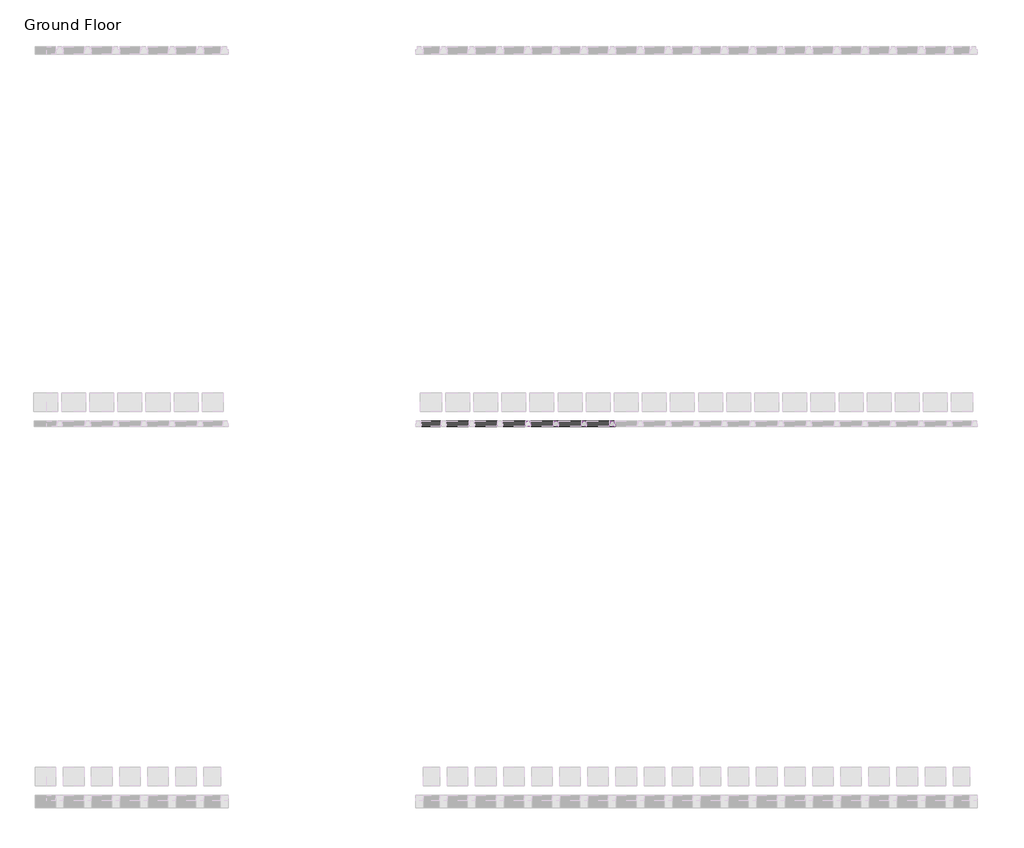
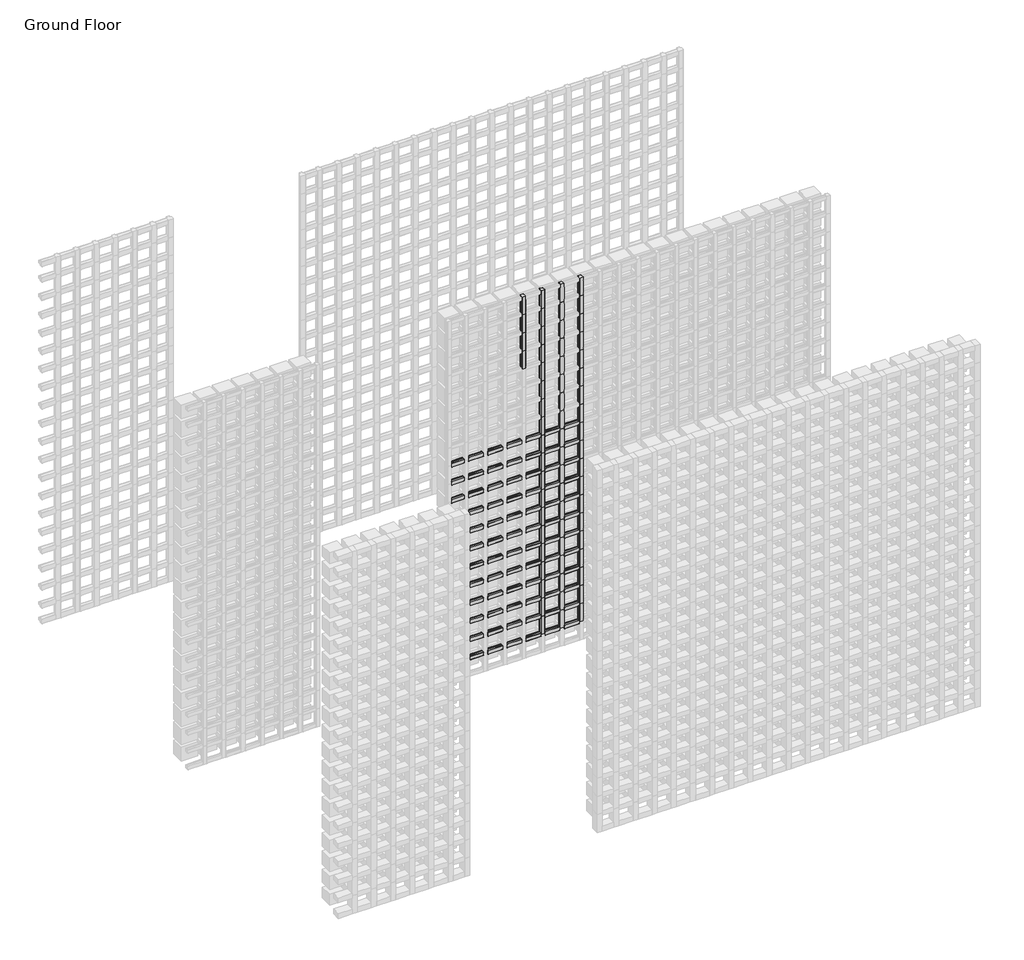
# One storey, part 137 of 350: 145 members.
"""IFC4 building model written with IfcOpenShell, lengths in millimetres."""

from ifc_helpers import new_model, si_unit, origin, place, context, project, spatial, transform, mapped, element, save
from components import rectangular_mullion_01bdf753, rectangular_mullion_f1976eb1, rectangular_mullion_e2bab149

model = new_model("IFC4")

# Units and contexts
model_context = context("Model", 3, world=origin())
ifc_project = project(units=[si_unit("LENGTHUNIT", "METRE", prefix="MILLI")], contexts=[model_context])

# Site, building, storey
site = spatial("IfcSite", under=ifc_project)
building = spatial("IfcBuilding", under=site)
storey = spatial("IfcBuildingStorey", under=building, Name="Ground Floor", Elevation=0.0)

# Members
placement = place(None, origin())
rectangular_mullion_shape = rectangular_mullion_01bdf753(model_context)
element("IfcMember", 1, ObjectType="Rectangular Mullion : Batten_Timber_Modinex_Austratus_Grid_Fin_30x30_Hemlock", at=placement, inside=storey, context=model_context, shape_type="MappedRepresentation", body=[
    mapped(rectangular_mullion_shape, transform((10201.4361642, 42968.2978302, 150.0), x_axis=(0.0, 0.0, 1.0), y_axis=(0.0, -1.0, 0.0), z_axis=(1.0, 0.0, 0.0))),
])
element("IfcMember", 2, ObjectType="Rectangular Mullion : Batten_Timber_Modinex_Austratus_Grid_Fin_30x30_Hemlock", at=placement, inside=storey, context=model_context, shape_type="MappedRepresentation", body=[
    mapped(rectangular_mullion_shape, transform((10351.4361642, 42968.2978302, 150.0), x_axis=(0.0, 0.0, 1.0), y_axis=(0.0, -1.0, 0.0), z_axis=(1.0, 0.0, 0.0))),
])
element("IfcMember", 3, ObjectType="Rectangular Mullion : Batten_Timber_Modinex_Austratus_Grid_Fin_30x30_Hemlock", at=placement, inside=storey, context=model_context, shape_type="MappedRepresentation", body=[
    mapped(rectangular_mullion_shape, transform((10501.4361642, 42968.2978302, 150.0), x_axis=(0.0, 0.0, 1.0), y_axis=(0.0, -1.0, 0.0), z_axis=(1.0, 0.0, 0.0))),
])
element("IfcMember", 4, ObjectType="Rectangular Mullion : Batten_Timber_Modinex_Austratus_Grid_Fin_30x30_Hemlock", at=placement, inside=storey, context=model_context, shape_type="MappedRepresentation", body=[
    mapped(rectangular_mullion_shape, transform((10651.4361642, 42968.2978302, 150.0), x_axis=(0.0, 0.0, 1.0), y_axis=(0.0, -1.0, 0.0), z_axis=(1.0, 0.0, 0.0))),
])
element("IfcMember", 5, ObjectType="Rectangular Mullion : Batten_Timber_Modinex_Austratus_Grid_Fin_30x30_Hemlock", at=placement, inside=storey, context=model_context, shape_type="MappedRepresentation", body=[
    mapped(rectangular_mullion_shape, transform((10801.4361642, 42968.2978302, 150.0), x_axis=(0.0, 0.0, 1.0), y_axis=(0.0, -1.0, 0.0), z_axis=(1.0, 0.0, 0.0))),
])
element("IfcMember", 6, ObjectType="Rectangular Mullion : Batten_Timber_Modinex_Austratus_Grid_Fin_30x30_Hemlock", at=placement, inside=storey, context=model_context, shape_type="MappedRepresentation", body=[
    mapped(rectangular_mullion_shape, transform((10951.4361642, 42968.2978302, 150.0), x_axis=(0.0, 0.0, 1.0), y_axis=(0.0, -1.0, 0.0), z_axis=(1.0, 0.0, 0.0))),
])
element("IfcMember", 7, ObjectType="Rectangular Mullion : Batten_Timber_Modinex_Austratus_Grid_Fin_30x30_Hemlock", at=placement, inside=storey, context=model_context, shape_type="MappedRepresentation", body=[
    mapped(rectangular_mullion_shape, transform((10201.4361642, 42968.2978302, 300.0), x_axis=(0.0, 0.0, 1.0), y_axis=(0.0, -1.0, 0.0), z_axis=(1.0, 0.0, 0.0))),
])
element("IfcMember", 8, ObjectType="Rectangular Mullion : Batten_Timber_Modinex_Austratus_Grid_Fin_30x30_Hemlock", at=placement, inside=storey, context=model_context, shape_type="MappedRepresentation", body=[
    mapped(rectangular_mullion_shape, transform((10351.4361642, 42968.2978302, 300.0), x_axis=(0.0, 0.0, 1.0), y_axis=(0.0, -1.0, 0.0), z_axis=(1.0, 0.0, 0.0))),
])
element("IfcMember", 9, ObjectType="Rectangular Mullion : Batten_Timber_Modinex_Austratus_Grid_Fin_30x30_Hemlock", at=placement, inside=storey, context=model_context, shape_type="MappedRepresentation", body=[
    mapped(rectangular_mullion_shape, transform((10501.4361642, 42968.2978302, 300.0), x_axis=(0.0, 0.0, 1.0), y_axis=(0.0, -1.0, 0.0), z_axis=(1.0, 0.0, 0.0))),
])
element("IfcMember", 10, ObjectType="Rectangular Mullion : Batten_Timber_Modinex_Austratus_Grid_Fin_30x30_Hemlock", at=placement, inside=storey, context=model_context, shape_type="MappedRepresentation", body=[
    mapped(rectangular_mullion_shape, transform((10651.4361642, 42968.2978302, 300.0), x_axis=(0.0, 0.0, 1.0), y_axis=(0.0, -1.0, 0.0), z_axis=(1.0, 0.0, 0.0))),
])
element("IfcMember", 11, ObjectType="Rectangular Mullion : Batten_Timber_Modinex_Austratus_Grid_Fin_30x30_Hemlock", at=placement, inside=storey, context=model_context, shape_type="MappedRepresentation", body=[
    mapped(rectangular_mullion_shape, transform((10801.4361642, 42968.2978302, 300.0), x_axis=(0.0, 0.0, 1.0), y_axis=(0.0, -1.0, 0.0), z_axis=(1.0, 0.0, 0.0))),
])
element("IfcMember", 12, ObjectType="Rectangular Mullion : Batten_Timber_Modinex_Austratus_Grid_Fin_30x30_Hemlock", at=placement, inside=storey, context=model_context, shape_type="MappedRepresentation", body=[
    mapped(rectangular_mullion_shape, transform((10951.4361642, 42968.2978302, 300.0), x_axis=(0.0, 0.0, 1.0), y_axis=(0.0, -1.0, 0.0), z_axis=(1.0, 0.0, 0.0))),
])
element("IfcMember", 13, ObjectType="Rectangular Mullion : Batten_Timber_Modinex_Austratus_Grid_Fin_30x30_Hemlock", at=placement, inside=storey, context=model_context, shape_type="MappedRepresentation", body=[
    mapped(rectangular_mullion_shape, transform((10201.4361642, 42968.2978302, 450.0), x_axis=(0.0, 0.0, 1.0), y_axis=(0.0, -1.0, 0.0), z_axis=(1.0, 0.0, 0.0))),
])
element("IfcMember", 14, ObjectType="Rectangular Mullion : Batten_Timber_Modinex_Austratus_Grid_Fin_30x30_Hemlock", at=placement, inside=storey, context=model_context, shape_type="MappedRepresentation", body=[
    mapped(rectangular_mullion_shape, transform((10351.4361642, 42968.2978302, 450.0), x_axis=(0.0, 0.0, 1.0), y_axis=(0.0, -1.0, 0.0), z_axis=(1.0, 0.0, 0.0))),
])
element("IfcMember", 15, ObjectType="Rectangular Mullion : Batten_Timber_Modinex_Austratus_Grid_Fin_30x30_Hemlock", at=placement, inside=storey, context=model_context, shape_type="MappedRepresentation", body=[
    mapped(rectangular_mullion_shape, transform((10501.4361642, 42968.2978302, 450.0), x_axis=(0.0, 0.0, 1.0), y_axis=(0.0, -1.0, 0.0), z_axis=(1.0, 0.0, 0.0))),
])
element("IfcMember", 16, ObjectType="Rectangular Mullion : Batten_Timber_Modinex_Austratus_Grid_Fin_30x30_Hemlock", at=placement, inside=storey, context=model_context, shape_type="MappedRepresentation", body=[
    mapped(rectangular_mullion_shape, transform((10651.4361642, 42968.2978302, 450.0), x_axis=(0.0, 0.0, 1.0), y_axis=(0.0, -1.0, 0.0), z_axis=(1.0, 0.0, 0.0))),
])
element("IfcMember", 17, ObjectType="Rectangular Mullion : Batten_Timber_Modinex_Austratus_Grid_Fin_30x30_Hemlock", at=placement, inside=storey, context=model_context, shape_type="MappedRepresentation", body=[
    mapped(rectangular_mullion_shape, transform((10801.4361642, 42968.2978302, 450.0), x_axis=(0.0, 0.0, 1.0), y_axis=(0.0, -1.0, 0.0), z_axis=(1.0, 0.0, 0.0))),
])
element("IfcMember", 18, ObjectType="Rectangular Mullion : Batten_Timber_Modinex_Austratus_Grid_Fin_30x30_Hemlock", at=placement, inside=storey, context=model_context, shape_type="MappedRepresentation", body=[
    mapped(rectangular_mullion_shape, transform((10951.4361642, 42968.2978302, 450.0), x_axis=(0.0, 0.0, 1.0), y_axis=(0.0, -1.0, 0.0), z_axis=(1.0, 0.0, 0.0))),
])
element("IfcMember", 19, ObjectType="Rectangular Mullion : Batten_Timber_Modinex_Austratus_Grid_Fin_30x30_Hemlock", at=placement, inside=storey, context=model_context, shape_type="MappedRepresentation", body=[
    mapped(rectangular_mullion_shape, transform((10201.4361642, 42968.2978302, 600.0), x_axis=(0.0, 0.0, 1.0), y_axis=(0.0, -1.0, 0.0), z_axis=(1.0, 0.0, 0.0))),
])
element("IfcMember", 20, ObjectType="Rectangular Mullion : Batten_Timber_Modinex_Austratus_Grid_Fin_30x30_Hemlock", at=placement, inside=storey, context=model_context, shape_type="MappedRepresentation", body=[
    mapped(rectangular_mullion_shape, transform((10351.4361642, 42968.2978302, 600.0), x_axis=(0.0, 0.0, 1.0), y_axis=(0.0, -1.0, 0.0), z_axis=(1.0, 0.0, 0.0))),
])
element("IfcMember", 21, ObjectType="Rectangular Mullion : Batten_Timber_Modinex_Austratus_Grid_Fin_30x30_Hemlock", at=placement, inside=storey, context=model_context, shape_type="MappedRepresentation", body=[
    mapped(rectangular_mullion_shape, transform((10501.4361642, 42968.2978302, 600.0), x_axis=(0.0, 0.0, 1.0), y_axis=(0.0, -1.0, 0.0), z_axis=(1.0, 0.0, 0.0))),
])
element("IfcMember", 22, ObjectType="Rectangular Mullion : Batten_Timber_Modinex_Austratus_Grid_Fin_30x30_Hemlock", at=placement, inside=storey, context=model_context, shape_type="MappedRepresentation", body=[
    mapped(rectangular_mullion_shape, transform((10651.4361642, 42968.2978302, 600.0), x_axis=(0.0, 0.0, 1.0), y_axis=(0.0, -1.0, 0.0), z_axis=(1.0, 0.0, 0.0))),
])
element("IfcMember", 23, ObjectType="Rectangular Mullion : Batten_Timber_Modinex_Austratus_Grid_Fin_30x30_Hemlock", at=placement, inside=storey, context=model_context, shape_type="MappedRepresentation", body=[
    mapped(rectangular_mullion_shape, transform((10801.4361642, 42968.2978302, 600.0), x_axis=(0.0, 0.0, 1.0), y_axis=(0.0, -1.0, 0.0), z_axis=(1.0, 0.0, 0.0))),
])
element("IfcMember", 24, ObjectType="Rectangular Mullion : Batten_Timber_Modinex_Austratus_Grid_Fin_30x30_Hemlock", at=placement, inside=storey, context=model_context, shape_type="MappedRepresentation", body=[
    mapped(rectangular_mullion_shape, transform((10951.4361642, 42968.2978302, 600.0), x_axis=(0.0, 0.0, 1.0), y_axis=(0.0, -1.0, 0.0), z_axis=(1.0, 0.0, 0.0))),
])
element("IfcMember", 25, ObjectType="Rectangular Mullion : Batten_Timber_Modinex_Austratus_Grid_Fin_30x30_Hemlock", at=placement, inside=storey, context=model_context, shape_type="MappedRepresentation", body=[
    mapped(rectangular_mullion_shape, transform((10201.4361642, 42968.2978302, 750.0), x_axis=(0.0, 0.0, 1.0), y_axis=(0.0, -1.0, 0.0), z_axis=(1.0, 0.0, 0.0))),
])
element("IfcMember", 26, ObjectType="Rectangular Mullion : Batten_Timber_Modinex_Austratus_Grid_Fin_30x30_Hemlock", at=placement, inside=storey, context=model_context, shape_type="MappedRepresentation", body=[
    mapped(rectangular_mullion_shape, transform((10351.4361642, 42968.2978302, 750.0), x_axis=(0.0, 0.0, 1.0), y_axis=(0.0, -1.0, 0.0), z_axis=(1.0, 0.0, 0.0))),
])
element("IfcMember", 27, ObjectType="Rectangular Mullion : Batten_Timber_Modinex_Austratus_Grid_Fin_30x30_Hemlock", at=placement, inside=storey, context=model_context, shape_type="MappedRepresentation", body=[
    mapped(rectangular_mullion_shape, transform((10501.4361642, 42968.2978302, 750.0), x_axis=(0.0, 0.0, 1.0), y_axis=(0.0, -1.0, 0.0), z_axis=(1.0, 0.0, 0.0))),
])
element("IfcMember", 28, ObjectType="Rectangular Mullion : Batten_Timber_Modinex_Austratus_Grid_Fin_30x30_Hemlock", at=placement, inside=storey, context=model_context, shape_type="MappedRepresentation", body=[
    mapped(rectangular_mullion_shape, transform((10651.4361642, 42968.2978302, 750.0), x_axis=(0.0, 0.0, 1.0), y_axis=(0.0, -1.0, 0.0), z_axis=(1.0, 0.0, 0.0))),
])
element("IfcMember", 29, ObjectType="Rectangular Mullion : Batten_Timber_Modinex_Austratus_Grid_Fin_30x30_Hemlock", at=placement, inside=storey, context=model_context, shape_type="MappedRepresentation", body=[
    mapped(rectangular_mullion_shape, transform((10801.4361642, 42968.2978302, 750.0), x_axis=(0.0, 0.0, 1.0), y_axis=(0.0, -1.0, 0.0), z_axis=(1.0, 0.0, 0.0))),
])
element("IfcMember", 30, ObjectType="Rectangular Mullion : Batten_Timber_Modinex_Austratus_Grid_Fin_30x30_Hemlock", at=placement, inside=storey, context=model_context, shape_type="MappedRepresentation", body=[
    mapped(rectangular_mullion_shape, transform((10951.4361642, 42968.2978302, 750.0), x_axis=(0.0, 0.0, 1.0), y_axis=(0.0, -1.0, 0.0), z_axis=(1.0, 0.0, 0.0))),
])
element("IfcMember", 31, ObjectType="Rectangular Mullion : Batten_Timber_Modinex_Austratus_Grid_Fin_30x30_Hemlock", at=placement, inside=storey, context=model_context, shape_type="MappedRepresentation", body=[
    mapped(rectangular_mullion_shape, transform((10201.4361642, 42968.2978302, 900.0), x_axis=(0.0, 0.0, 1.0), y_axis=(0.0, -1.0, 0.0), z_axis=(1.0, 0.0, 0.0))),
])
element("IfcMember", 32, ObjectType="Rectangular Mullion : Batten_Timber_Modinex_Austratus_Grid_Fin_30x30_Hemlock", at=placement, inside=storey, context=model_context, shape_type="MappedRepresentation", body=[
    mapped(rectangular_mullion_shape, transform((10351.4361642, 42968.2978302, 900.0), x_axis=(0.0, 0.0, 1.0), y_axis=(0.0, -1.0, 0.0), z_axis=(1.0, 0.0, 0.0))),
])
element("IfcMember", 33, ObjectType="Rectangular Mullion : Batten_Timber_Modinex_Austratus_Grid_Fin_30x30_Hemlock", at=placement, inside=storey, context=model_context, shape_type="MappedRepresentation", body=[
    mapped(rectangular_mullion_shape, transform((10501.4361642, 42968.2978302, 900.0), x_axis=(0.0, 0.0, 1.0), y_axis=(0.0, -1.0, 0.0), z_axis=(1.0, 0.0, 0.0))),
])
element("IfcMember", 34, ObjectType="Rectangular Mullion : Batten_Timber_Modinex_Austratus_Grid_Fin_30x30_Hemlock", at=placement, inside=storey, context=model_context, shape_type="MappedRepresentation", body=[
    mapped(rectangular_mullion_shape, transform((10651.4361642, 42968.2978302, 900.0), x_axis=(0.0, 0.0, 1.0), y_axis=(0.0, -1.0, 0.0), z_axis=(1.0, 0.0, 0.0))),
])
element("IfcMember", 35, ObjectType="Rectangular Mullion : Batten_Timber_Modinex_Austratus_Grid_Fin_30x30_Hemlock", at=placement, inside=storey, context=model_context, shape_type="MappedRepresentation", body=[
    mapped(rectangular_mullion_shape, transform((10801.4361642, 42968.2978302, 900.0), x_axis=(0.0, 0.0, 1.0), y_axis=(0.0, -1.0, 0.0), z_axis=(1.0, 0.0, 0.0))),
])
element("IfcMember", 36, ObjectType="Rectangular Mullion : Batten_Timber_Modinex_Austratus_Grid_Fin_30x30_Hemlock", at=placement, inside=storey, context=model_context, shape_type="MappedRepresentation", body=[
    mapped(rectangular_mullion_shape, transform((10951.4361642, 42968.2978302, 900.0), x_axis=(0.0, 0.0, 1.0), y_axis=(0.0, -1.0, 0.0), z_axis=(1.0, 0.0, 0.0))),
])
element("IfcMember", 37, ObjectType="Rectangular Mullion : Batten_Timber_Modinex_Austratus_Grid_Fin_30x30_Hemlock", at=placement, inside=storey, context=model_context, shape_type="MappedRepresentation", body=[
    mapped(rectangular_mullion_shape, transform((10201.4361642, 42968.2978302, 1050.0), x_axis=(0.0, 0.0, 1.0), y_axis=(0.0, -1.0, 0.0), z_axis=(1.0, 0.0, 0.0))),
])
element("IfcMember", 38, ObjectType="Rectangular Mullion : Batten_Timber_Modinex_Austratus_Grid_Fin_30x30_Hemlock", at=placement, inside=storey, context=model_context, shape_type="MappedRepresentation", body=[
    mapped(rectangular_mullion_shape, transform((10351.4361642, 42968.2978302, 1050.0), x_axis=(0.0, 0.0, 1.0), y_axis=(0.0, -1.0, 0.0), z_axis=(1.0, 0.0, 0.0))),
])
element("IfcMember", 39, ObjectType="Rectangular Mullion : Batten_Timber_Modinex_Austratus_Grid_Fin_30x30_Hemlock", at=placement, inside=storey, context=model_context, shape_type="MappedRepresentation", body=[
    mapped(rectangular_mullion_shape, transform((10501.4361642, 42968.2978302, 1050.0), x_axis=(0.0, 0.0, 1.0), y_axis=(0.0, -1.0, 0.0), z_axis=(1.0, 0.0, 0.0))),
])
element("IfcMember", 40, ObjectType="Rectangular Mullion : Batten_Timber_Modinex_Austratus_Grid_Fin_30x30_Hemlock", at=placement, inside=storey, context=model_context, shape_type="MappedRepresentation", body=[
    mapped(rectangular_mullion_shape, transform((10651.4361642, 42968.2978302, 1050.0), x_axis=(0.0, 0.0, 1.0), y_axis=(0.0, -1.0, 0.0), z_axis=(1.0, 0.0, 0.0))),
])
element("IfcMember", 41, ObjectType="Rectangular Mullion : Batten_Timber_Modinex_Austratus_Grid_Fin_30x30_Hemlock", at=placement, inside=storey, context=model_context, shape_type="MappedRepresentation", body=[
    mapped(rectangular_mullion_shape, transform((10801.4361642, 42968.2978302, 1050.0), x_axis=(0.0, 0.0, 1.0), y_axis=(0.0, -1.0, 0.0), z_axis=(1.0, 0.0, 0.0))),
])
element("IfcMember", 42, ObjectType="Rectangular Mullion : Batten_Timber_Modinex_Austratus_Grid_Fin_30x30_Hemlock", at=placement, inside=storey, context=model_context, shape_type="MappedRepresentation", body=[
    mapped(rectangular_mullion_shape, transform((10951.4361642, 42968.2978302, 1050.0), x_axis=(0.0, 0.0, 1.0), y_axis=(0.0, -1.0, 0.0), z_axis=(1.0, 0.0, 0.0))),
])
element("IfcMember", 43, ObjectType="Rectangular Mullion : Batten_Timber_Modinex_Austratus_Grid_Fin_30x30_Hemlock", at=placement, inside=storey, context=model_context, shape_type="MappedRepresentation", body=[
    mapped(rectangular_mullion_shape, transform((10201.4361642, 42968.2978302, 1200.0), x_axis=(0.0, 0.0, 1.0), y_axis=(0.0, -1.0, 0.0), z_axis=(1.0, 0.0, 0.0))),
])
element("IfcMember", 44, ObjectType="Rectangular Mullion : Batten_Timber_Modinex_Austratus_Grid_Fin_30x30_Hemlock", at=placement, inside=storey, context=model_context, shape_type="MappedRepresentation", body=[
    mapped(rectangular_mullion_shape, transform((10351.4361642, 42968.2978302, 1200.0), x_axis=(0.0, 0.0, 1.0), y_axis=(0.0, -1.0, 0.0), z_axis=(1.0, 0.0, 0.0))),
])
element("IfcMember", 45, ObjectType="Rectangular Mullion : Batten_Timber_Modinex_Austratus_Grid_Fin_30x30_Hemlock", at=placement, inside=storey, context=model_context, shape_type="MappedRepresentation", body=[
    mapped(rectangular_mullion_shape, transform((10501.4361642, 42968.2978302, 1200.0), x_axis=(0.0, 0.0, 1.0), y_axis=(0.0, -1.0, 0.0), z_axis=(1.0, 0.0, 0.0))),
])
element("IfcMember", 46, ObjectType="Rectangular Mullion : Batten_Timber_Modinex_Austratus_Grid_Fin_30x30_Hemlock", at=placement, inside=storey, context=model_context, shape_type="MappedRepresentation", body=[
    mapped(rectangular_mullion_shape, transform((10651.4361642, 42968.2978302, 1200.0), x_axis=(0.0, 0.0, 1.0), y_axis=(0.0, -1.0, 0.0), z_axis=(1.0, 0.0, 0.0))),
])
element("IfcMember", 47, ObjectType="Rectangular Mullion : Batten_Timber_Modinex_Austratus_Grid_Fin_30x30_Hemlock", at=placement, inside=storey, context=model_context, shape_type="MappedRepresentation", body=[
    mapped(rectangular_mullion_shape, transform((10801.4361642, 42968.2978302, 1200.0), x_axis=(0.0, 0.0, 1.0), y_axis=(0.0, -1.0, 0.0), z_axis=(1.0, 0.0, 0.0))),
])
element("IfcMember", 48, ObjectType="Rectangular Mullion : Batten_Timber_Modinex_Austratus_Grid_Fin_30x30_Hemlock", at=placement, inside=storey, context=model_context, shape_type="MappedRepresentation", body=[
    mapped(rectangular_mullion_shape, transform((10951.4361642, 42968.2978302, 1200.0), x_axis=(0.0, 0.0, 1.0), y_axis=(0.0, -1.0, 0.0), z_axis=(1.0, 0.0, 0.0))),
])
element("IfcMember", 49, ObjectType="Rectangular Mullion : Batten_Timber_Modinex_Austratus_Grid_Fin_30x30_Hemlock", at=placement, inside=storey, context=model_context, shape_type="MappedRepresentation", body=[
    mapped(rectangular_mullion_shape, transform((10201.4361642, 42968.2978302, 1350.0), x_axis=(0.0, 0.0, 1.0), y_axis=(0.0, -1.0, 0.0), z_axis=(1.0, 0.0, 0.0))),
])
element("IfcMember", 50, ObjectType="Rectangular Mullion : Batten_Timber_Modinex_Austratus_Grid_Fin_30x30_Hemlock", at=placement, inside=storey, context=model_context, shape_type="MappedRepresentation", body=[
    mapped(rectangular_mullion_shape, transform((10351.4361642, 42968.2978302, 1350.0), x_axis=(0.0, 0.0, 1.0), y_axis=(0.0, -1.0, 0.0), z_axis=(1.0, 0.0, 0.0))),
])
element("IfcMember", 51, ObjectType="Rectangular Mullion : Batten_Timber_Modinex_Austratus_Grid_Fin_30x30_Hemlock", at=placement, inside=storey, context=model_context, shape_type="MappedRepresentation", body=[
    mapped(rectangular_mullion_shape, transform((10501.4361642, 42968.2978302, 1350.0), x_axis=(0.0, 0.0, 1.0), y_axis=(0.0, -1.0, 0.0), z_axis=(1.0, 0.0, 0.0))),
])
element("IfcMember", 52, ObjectType="Rectangular Mullion : Batten_Timber_Modinex_Austratus_Grid_Fin_30x30_Hemlock", at=placement, inside=storey, context=model_context, shape_type="MappedRepresentation", body=[
    mapped(rectangular_mullion_shape, transform((10651.4361642, 42968.2978302, 1350.0), x_axis=(0.0, 0.0, 1.0), y_axis=(0.0, -1.0, 0.0), z_axis=(1.0, 0.0, 0.0))),
])
element("IfcMember", 53, ObjectType="Rectangular Mullion : Batten_Timber_Modinex_Austratus_Grid_Fin_30x30_Hemlock", at=placement, inside=storey, context=model_context, shape_type="MappedRepresentation", body=[
    mapped(rectangular_mullion_shape, transform((10801.4361642, 42968.2978302, 1350.0), x_axis=(0.0, 0.0, 1.0), y_axis=(0.0, -1.0, 0.0), z_axis=(1.0, 0.0, 0.0))),
])
element("IfcMember", 54, ObjectType="Rectangular Mullion : Batten_Timber_Modinex_Austratus_Grid_Fin_30x30_Hemlock", at=placement, inside=storey, context=model_context, shape_type="MappedRepresentation", body=[
    mapped(rectangular_mullion_shape, transform((10951.4361642, 42968.2978302, 1350.0), x_axis=(0.0, 0.0, 1.0), y_axis=(0.0, -1.0, 0.0), z_axis=(1.0, 0.0, 0.0))),
])
element("IfcMember", 55, ObjectType="Rectangular Mullion : Batten_Timber_Modinex_Austratus_Grid_Fin_30x30_Hemlock", at=placement, inside=storey, context=model_context, shape_type="MappedRepresentation", body=[
    mapped(rectangular_mullion_shape, transform((10201.4361642, 42968.2978302, 1500.0), x_axis=(0.0, 0.0, 1.0), y_axis=(0.0, -1.0, 0.0), z_axis=(1.0, 0.0, 0.0))),
])
element("IfcMember", 56, ObjectType="Rectangular Mullion : Batten_Timber_Modinex_Austratus_Grid_Fin_30x30_Hemlock", at=placement, inside=storey, context=model_context, shape_type="MappedRepresentation", body=[
    mapped(rectangular_mullion_shape, transform((10351.4361642, 42968.2978302, 1500.0), x_axis=(0.0, 0.0, 1.0), y_axis=(0.0, -1.0, 0.0), z_axis=(1.0, 0.0, 0.0))),
])
element("IfcMember", 57, ObjectType="Rectangular Mullion : Batten_Timber_Modinex_Austratus_Grid_Fin_30x30_Hemlock", at=placement, inside=storey, context=model_context, shape_type="MappedRepresentation", body=[
    mapped(rectangular_mullion_shape, transform((10501.4361642, 42968.2978302, 1500.0), x_axis=(0.0, 0.0, 1.0), y_axis=(0.0, -1.0, 0.0), z_axis=(1.0, 0.0, 0.0))),
])
element("IfcMember", 58, ObjectType="Rectangular Mullion : Batten_Timber_Modinex_Austratus_Grid_Fin_30x30_Hemlock", at=placement, inside=storey, context=model_context, shape_type="MappedRepresentation", body=[
    mapped(rectangular_mullion_shape, transform((10651.4361642, 42968.2978302, 1500.0), x_axis=(0.0, 0.0, 1.0), y_axis=(0.0, -1.0, 0.0), z_axis=(1.0, 0.0, 0.0))),
])
element("IfcMember", 59, ObjectType="Rectangular Mullion : Batten_Timber_Modinex_Austratus_Grid_Fin_30x30_Hemlock", at=placement, inside=storey, context=model_context, shape_type="MappedRepresentation", body=[
    mapped(rectangular_mullion_shape, transform((10801.4361642, 42968.2978302, 1500.0), x_axis=(0.0, 0.0, 1.0), y_axis=(0.0, -1.0, 0.0), z_axis=(1.0, 0.0, 0.0))),
])
element("IfcMember", 60, ObjectType="Rectangular Mullion : Batten_Timber_Modinex_Austratus_Grid_Fin_30x30_Hemlock", at=placement, inside=storey, context=model_context, shape_type="MappedRepresentation", body=[
    mapped(rectangular_mullion_shape, transform((10951.4361642, 42968.2978302, 1500.0), x_axis=(0.0, 0.0, 1.0), y_axis=(0.0, -1.0, 0.0), z_axis=(1.0, 0.0, 0.0))),
])
element("IfcMember", 61, ObjectType="Rectangular Mullion : Batten_Timber_Modinex_Austratus_Grid_Fin_30x30_Hemlock", at=placement, inside=storey, context=model_context, shape_type="MappedRepresentation", body=[
    mapped(rectangular_mullion_shape, transform((10201.4361642, 42968.2978302, 1650.0), x_axis=(0.0, 0.0, 1.0), y_axis=(0.0, -1.0, 0.0), z_axis=(1.0, 0.0, 0.0))),
])
element("IfcMember", 62, ObjectType="Rectangular Mullion : Batten_Timber_Modinex_Austratus_Grid_Fin_30x30_Hemlock", at=placement, inside=storey, context=model_context, shape_type="MappedRepresentation", body=[
    mapped(rectangular_mullion_shape, transform((10351.4361642, 42968.2978302, 1650.0), x_axis=(0.0, 0.0, 1.0), y_axis=(0.0, -1.0, 0.0), z_axis=(1.0, 0.0, 0.0))),
])
element("IfcMember", 63, ObjectType="Rectangular Mullion : Batten_Timber_Modinex_Austratus_Grid_Fin_30x30_Hemlock", at=placement, inside=storey, context=model_context, shape_type="MappedRepresentation", body=[
    mapped(rectangular_mullion_shape, transform((10501.4361642, 42968.2978302, 1650.0), x_axis=(0.0, 0.0, 1.0), y_axis=(0.0, -1.0, 0.0), z_axis=(1.0, 0.0, 0.0))),
])
element("IfcMember", 64, ObjectType="Rectangular Mullion : Batten_Timber_Modinex_Austratus_Grid_Fin_30x30_Hemlock", at=placement, inside=storey, context=model_context, shape_type="MappedRepresentation", body=[
    mapped(rectangular_mullion_shape, transform((10651.4361642, 42968.2978302, 1650.0), x_axis=(0.0, 0.0, 1.0), y_axis=(0.0, -1.0, 0.0), z_axis=(1.0, 0.0, 0.0))),
])
element("IfcMember", 65, ObjectType="Rectangular Mullion : Batten_Timber_Modinex_Austratus_Grid_Fin_30x30_Hemlock", at=placement, inside=storey, context=model_context, shape_type="MappedRepresentation", body=[
    mapped(rectangular_mullion_shape, transform((10801.4361642, 42968.2978302, 1650.0), x_axis=(0.0, 0.0, 1.0), y_axis=(0.0, -1.0, 0.0), z_axis=(1.0, 0.0, 0.0))),
])
element("IfcMember", 66, ObjectType="Rectangular Mullion : Batten_Timber_Modinex_Austratus_Grid_Fin_30x30_Hemlock", at=placement, inside=storey, context=model_context, shape_type="MappedRepresentation", body=[
    mapped(rectangular_mullion_shape, transform((10951.4361642, 42968.2978302, 1650.0), x_axis=(0.0, 0.0, 1.0), y_axis=(0.0, -1.0, 0.0), z_axis=(1.0, 0.0, 0.0))),
])
element("IfcMember", 67, ObjectType="Rectangular Mullion : Batten_Timber_Modinex_Austratus_Grid_Fin_30x30_Hemlock", at=placement, inside=storey, context=model_context, shape_type="MappedRepresentation", body=[
    mapped(rectangular_mullion_shape, transform((10201.4361642, 42968.2978302, 1800.0), x_axis=(0.0, 0.0, 1.0), y_axis=(0.0, -1.0, 0.0), z_axis=(1.0, 0.0, 0.0))),
])
element("IfcMember", 68, ObjectType="Rectangular Mullion : Batten_Timber_Modinex_Austratus_Grid_Fin_30x30_Hemlock", at=placement, inside=storey, context=model_context, shape_type="MappedRepresentation", body=[
    mapped(rectangular_mullion_shape, transform((10351.4361642, 42968.2978302, 1800.0), x_axis=(0.0, 0.0, 1.0), y_axis=(0.0, -1.0, 0.0), z_axis=(1.0, 0.0, 0.0))),
])
element("IfcMember", 69, ObjectType="Rectangular Mullion : Batten_Timber_Modinex_Austratus_Grid_Fin_30x30_Hemlock", at=placement, inside=storey, context=model_context, shape_type="MappedRepresentation", body=[
    mapped(rectangular_mullion_shape, transform((10501.4361642, 42968.2978302, 1800.0), x_axis=(0.0, 0.0, 1.0), y_axis=(0.0, -1.0, 0.0), z_axis=(1.0, 0.0, 0.0))),
])
element("IfcMember", 70, ObjectType="Rectangular Mullion : Batten_Timber_Modinex_Austratus_Grid_Fin_30x30_Hemlock", at=placement, inside=storey, context=model_context, shape_type="MappedRepresentation", body=[
    mapped(rectangular_mullion_shape, transform((10651.4361642, 42968.2978302, 1800.0), x_axis=(0.0, 0.0, 1.0), y_axis=(0.0, -1.0, 0.0), z_axis=(1.0, 0.0, 0.0))),
])
element("IfcMember", 71, ObjectType="Rectangular Mullion : Batten_Timber_Modinex_Austratus_Grid_Fin_30x30_Hemlock", at=placement, inside=storey, context=model_context, shape_type="MappedRepresentation", body=[
    mapped(rectangular_mullion_shape, transform((10801.4361642, 42968.2978302, 1800.0), x_axis=(0.0, 0.0, 1.0), y_axis=(0.0, -1.0, 0.0), z_axis=(1.0, 0.0, 0.0))),
])
element("IfcMember", 72, ObjectType="Rectangular Mullion : Batten_Timber_Modinex_Austratus_Grid_Fin_30x30_Hemlock", at=placement, inside=storey, context=model_context, shape_type="MappedRepresentation", body=[
    mapped(rectangular_mullion_shape, transform((10951.4361642, 42968.2978302, 1800.0), x_axis=(0.0, 0.0, 1.0), y_axis=(0.0, -1.0, 0.0), z_axis=(1.0, 0.0, 0.0))),
])
rectangular_mullion_2_shape = rectangular_mullion_f1976eb1(model_context)
element("IfcMember", 73, ObjectType="Rectangular Mullion : Batten_Timber_Modinex_Austratus_Grid_Fin_30x30_Hemlock", at=placement, inside=storey, context=model_context, shape_type="MappedRepresentation", body=[
    mapped(rectangular_mullion_2_shape, transform((10516.4361642, 42968.2978302, 2400.0), x_axis=(1.0, 0.0, 0.0), y_axis=(0.0, -1.0, 0.0), z_axis=(0.0, 0.0, -1.0))),
])
element("IfcMember", 74, ObjectType="Rectangular Mullion : Batten_Timber_Modinex_Austratus_Grid_Fin_30x30_Hemlock", at=placement, inside=storey, context=model_context, shape_type="MappedRepresentation", body=[
    mapped(rectangular_mullion_2_shape, transform((10516.4361642, 42968.2978302, 2550.0), x_axis=(1.0, 0.0, 0.0), y_axis=(0.0, -1.0, 0.0), z_axis=(0.0, 0.0, -1.0))),
])
element("IfcMember", 75, ObjectType="Rectangular Mullion : Batten_Timber_Modinex_Austratus_Grid_Fin_30x30_Hemlock", at=placement, inside=storey, context=model_context, shape_type="MappedRepresentation", body=[
    mapped(rectangular_mullion_2_shape, transform((10516.4361642, 42968.2978302, 2700.0), x_axis=(1.0, 0.0, 0.0), y_axis=(0.0, -1.0, 0.0), z_axis=(0.0, 0.0, -1.0))),
])
element("IfcMember", 76, ObjectType="Rectangular Mullion : Batten_Timber_Modinex_Austratus_Grid_Fin_30x30_Hemlock", at=placement, inside=storey, context=model_context, shape_type="MappedRepresentation", body=[
    mapped(rectangular_mullion_2_shape, transform((10666.4361642, 42968.2978302, 150.0), x_axis=(1.0, 0.0, 0.0), y_axis=(0.0, -1.0, 0.0), z_axis=(0.0, 0.0, -1.0))),
])
element("IfcMember", 77, ObjectType="Rectangular Mullion : Batten_Timber_Modinex_Austratus_Grid_Fin_30x30_Hemlock", at=placement, inside=storey, context=model_context, shape_type="MappedRepresentation", body=[
    mapped(rectangular_mullion_2_shape, transform((10666.4361642, 42968.2978302, 300.0), x_axis=(1.0, 0.0, 0.0), y_axis=(0.0, -1.0, 0.0), z_axis=(0.0, 0.0, -1.0))),
])
element("IfcMember", 78, ObjectType="Rectangular Mullion : Batten_Timber_Modinex_Austratus_Grid_Fin_30x30_Hemlock", at=placement, inside=storey, context=model_context, shape_type="MappedRepresentation", body=[
    mapped(rectangular_mullion_2_shape, transform((10666.4361642, 42968.2978302, 450.0), x_axis=(1.0, 0.0, 0.0), y_axis=(0.0, -1.0, 0.0), z_axis=(0.0, 0.0, -1.0))),
])
element("IfcMember", 79, ObjectType="Rectangular Mullion : Batten_Timber_Modinex_Austratus_Grid_Fin_30x30_Hemlock", at=placement, inside=storey, context=model_context, shape_type="MappedRepresentation", body=[
    mapped(rectangular_mullion_2_shape, transform((10666.4361642, 42968.2978302, 600.0), x_axis=(1.0, 0.0, 0.0), y_axis=(0.0, -1.0, 0.0), z_axis=(0.0, 0.0, -1.0))),
])
element("IfcMember", 80, ObjectType="Rectangular Mullion : Batten_Timber_Modinex_Austratus_Grid_Fin_30x30_Hemlock", at=placement, inside=storey, context=model_context, shape_type="MappedRepresentation", body=[
    mapped(rectangular_mullion_2_shape, transform((10666.4361642, 42968.2978302, 750.0), x_axis=(1.0, 0.0, 0.0), y_axis=(0.0, -1.0, 0.0), z_axis=(0.0, 0.0, -1.0))),
])
element("IfcMember", 81, ObjectType="Rectangular Mullion : Batten_Timber_Modinex_Austratus_Grid_Fin_30x30_Hemlock", at=placement, inside=storey, context=model_context, shape_type="MappedRepresentation", body=[
    mapped(rectangular_mullion_2_shape, transform((10666.4361642, 42968.2978302, 900.0), x_axis=(1.0, 0.0, 0.0), y_axis=(0.0, -1.0, 0.0), z_axis=(0.0, 0.0, -1.0))),
])
element("IfcMember", 82, ObjectType="Rectangular Mullion : Batten_Timber_Modinex_Austratus_Grid_Fin_30x30_Hemlock", at=placement, inside=storey, context=model_context, shape_type="MappedRepresentation", body=[
    mapped(rectangular_mullion_2_shape, transform((10666.4361642, 42968.2978302, 1050.0), x_axis=(1.0, 0.0, 0.0), y_axis=(0.0, -1.0, 0.0), z_axis=(0.0, 0.0, -1.0))),
])
element("IfcMember", 83, ObjectType="Rectangular Mullion : Batten_Timber_Modinex_Austratus_Grid_Fin_30x30_Hemlock", at=placement, inside=storey, context=model_context, shape_type="MappedRepresentation", body=[
    mapped(rectangular_mullion_2_shape, transform((10666.4361642, 42968.2978302, 1200.0), x_axis=(1.0, 0.0, 0.0), y_axis=(0.0, -1.0, 0.0), z_axis=(0.0, 0.0, -1.0))),
])
element("IfcMember", 84, ObjectType="Rectangular Mullion : Batten_Timber_Modinex_Austratus_Grid_Fin_30x30_Hemlock", at=placement, inside=storey, context=model_context, shape_type="MappedRepresentation", body=[
    mapped(rectangular_mullion_2_shape, transform((10666.4361642, 42968.2978302, 1350.0), x_axis=(1.0, 0.0, 0.0), y_axis=(0.0, -1.0, 0.0), z_axis=(0.0, 0.0, -1.0))),
])
element("IfcMember", 85, ObjectType="Rectangular Mullion : Batten_Timber_Modinex_Austratus_Grid_Fin_30x30_Hemlock", at=placement, inside=storey, context=model_context, shape_type="MappedRepresentation", body=[
    mapped(rectangular_mullion_2_shape, transform((10666.4361642, 42968.2978302, 1500.0), x_axis=(1.0, 0.0, 0.0), y_axis=(0.0, -1.0, 0.0), z_axis=(0.0, 0.0, -1.0))),
])
element("IfcMember", 86, ObjectType="Rectangular Mullion : Batten_Timber_Modinex_Austratus_Grid_Fin_30x30_Hemlock", at=placement, inside=storey, context=model_context, shape_type="MappedRepresentation", body=[
    mapped(rectangular_mullion_2_shape, transform((10666.4361642, 42968.2978302, 1650.0), x_axis=(1.0, 0.0, 0.0), y_axis=(0.0, -1.0, 0.0), z_axis=(0.0, 0.0, -1.0))),
])
element("IfcMember", 87, ObjectType="Rectangular Mullion : Batten_Timber_Modinex_Austratus_Grid_Fin_30x30_Hemlock", at=placement, inside=storey, context=model_context, shape_type="MappedRepresentation", body=[
    mapped(rectangular_mullion_2_shape, transform((10666.4361642, 42968.2978302, 1800.0), x_axis=(1.0, 0.0, 0.0), y_axis=(0.0, -1.0, 0.0), z_axis=(0.0, 0.0, -1.0))),
])
element("IfcMember", 88, ObjectType="Rectangular Mullion : Batten_Timber_Modinex_Austratus_Grid_Fin_30x30_Hemlock", at=placement, inside=storey, context=model_context, shape_type="MappedRepresentation", body=[
    mapped(rectangular_mullion_2_shape, transform((10666.4361642, 42968.2978302, 1950.0), x_axis=(1.0, 0.0, 0.0), y_axis=(0.0, -1.0, 0.0), z_axis=(0.0, 0.0, -1.0))),
])
element("IfcMember", 89, ObjectType="Rectangular Mullion : Batten_Timber_Modinex_Austratus_Grid_Fin_30x30_Hemlock", at=placement, inside=storey, context=model_context, shape_type="MappedRepresentation", body=[
    mapped(rectangular_mullion_2_shape, transform((10666.4361642, 42968.2978302, 2100.0), x_axis=(1.0, 0.0, 0.0), y_axis=(0.0, -1.0, 0.0), z_axis=(0.0, 0.0, -1.0))),
])
element("IfcMember", 90, ObjectType="Rectangular Mullion : Batten_Timber_Modinex_Austratus_Grid_Fin_30x30_Hemlock", at=placement, inside=storey, context=model_context, shape_type="MappedRepresentation", body=[
    mapped(rectangular_mullion_2_shape, transform((10666.4361642, 42968.2978302, 2250.0), x_axis=(1.0, 0.0, 0.0), y_axis=(0.0, -1.0, 0.0), z_axis=(0.0, 0.0, -1.0))),
])
element("IfcMember", 91, ObjectType="Rectangular Mullion : Batten_Timber_Modinex_Austratus_Grid_Fin_30x30_Hemlock", at=placement, inside=storey, context=model_context, shape_type="MappedRepresentation", body=[
    mapped(rectangular_mullion_2_shape, transform((10666.4361642, 42968.2978302, 2400.0), x_axis=(1.0, 0.0, 0.0), y_axis=(0.0, -1.0, 0.0), z_axis=(0.0, 0.0, -1.0))),
])
element("IfcMember", 92, ObjectType="Rectangular Mullion : Batten_Timber_Modinex_Austratus_Grid_Fin_30x30_Hemlock", at=placement, inside=storey, context=model_context, shape_type="MappedRepresentation", body=[
    mapped(rectangular_mullion_2_shape, transform((10666.4361642, 42968.2978302, 2550.0), x_axis=(1.0, 0.0, 0.0), y_axis=(0.0, -1.0, 0.0), z_axis=(0.0, 0.0, -1.0))),
])
element("IfcMember", 93, ObjectType="Rectangular Mullion : Batten_Timber_Modinex_Austratus_Grid_Fin_30x30_Hemlock", at=placement, inside=storey, context=model_context, shape_type="MappedRepresentation", body=[
    mapped(rectangular_mullion_2_shape, transform((10666.4361642, 42968.2978302, 2700.0), x_axis=(1.0, 0.0, 0.0), y_axis=(0.0, -1.0, 0.0), z_axis=(0.0, 0.0, -1.0))),
])
element("IfcMember", 94, ObjectType="Rectangular Mullion : Batten_Timber_Modinex_Austratus_Grid_Fin_30x30_Hemlock", at=placement, inside=storey, context=model_context, shape_type="MappedRepresentation", body=[
    mapped(rectangular_mullion_2_shape, transform((10816.4361642, 42968.2978302, 150.0), x_axis=(1.0, 0.0, 0.0), y_axis=(0.0, -1.0, 0.0), z_axis=(0.0, 0.0, -1.0))),
])
element("IfcMember", 95, ObjectType="Rectangular Mullion : Batten_Timber_Modinex_Austratus_Grid_Fin_30x30_Hemlock", at=placement, inside=storey, context=model_context, shape_type="MappedRepresentation", body=[
    mapped(rectangular_mullion_2_shape, transform((10816.4361642, 42968.2978302, 300.0), x_axis=(1.0, 0.0, 0.0), y_axis=(0.0, -1.0, 0.0), z_axis=(0.0, 0.0, -1.0))),
])
element("IfcMember", 96, ObjectType="Rectangular Mullion : Batten_Timber_Modinex_Austratus_Grid_Fin_30x30_Hemlock", at=placement, inside=storey, context=model_context, shape_type="MappedRepresentation", body=[
    mapped(rectangular_mullion_2_shape, transform((10816.4361642, 42968.2978302, 450.0), x_axis=(1.0, 0.0, 0.0), y_axis=(0.0, -1.0, 0.0), z_axis=(0.0, 0.0, -1.0))),
])
element("IfcMember", 97, ObjectType="Rectangular Mullion : Batten_Timber_Modinex_Austratus_Grid_Fin_30x30_Hemlock", at=placement, inside=storey, context=model_context, shape_type="MappedRepresentation", body=[
    mapped(rectangular_mullion_2_shape, transform((10816.4361642, 42968.2978302, 600.0), x_axis=(1.0, 0.0, 0.0), y_axis=(0.0, -1.0, 0.0), z_axis=(0.0, 0.0, -1.0))),
])
element("IfcMember", 98, ObjectType="Rectangular Mullion : Batten_Timber_Modinex_Austratus_Grid_Fin_30x30_Hemlock", at=placement, inside=storey, context=model_context, shape_type="MappedRepresentation", body=[
    mapped(rectangular_mullion_2_shape, transform((10816.4361642, 42968.2978302, 750.0), x_axis=(1.0, 0.0, 0.0), y_axis=(0.0, -1.0, 0.0), z_axis=(0.0, 0.0, -1.0))),
])
element("IfcMember", 99, ObjectType="Rectangular Mullion : Batten_Timber_Modinex_Austratus_Grid_Fin_30x30_Hemlock", at=placement, inside=storey, context=model_context, shape_type="MappedRepresentation", body=[
    mapped(rectangular_mullion_2_shape, transform((10816.4361642, 42968.2978302, 900.0), x_axis=(1.0, 0.0, 0.0), y_axis=(0.0, -1.0, 0.0), z_axis=(0.0, 0.0, -1.0))),
])
element("IfcMember", 100, ObjectType="Rectangular Mullion : Batten_Timber_Modinex_Austratus_Grid_Fin_30x30_Hemlock", at=placement, inside=storey, context=model_context, shape_type="MappedRepresentation", body=[
    mapped(rectangular_mullion_2_shape, transform((10816.4361642, 42968.2978302, 1050.0), x_axis=(1.0, 0.0, 0.0), y_axis=(0.0, -1.0, 0.0), z_axis=(0.0, 0.0, -1.0))),
])
element("IfcMember", 101, ObjectType="Rectangular Mullion : Batten_Timber_Modinex_Austratus_Grid_Fin_30x30_Hemlock", at=placement, inside=storey, context=model_context, shape_type="MappedRepresentation", body=[
    mapped(rectangular_mullion_2_shape, transform((10816.4361642, 42968.2978302, 1200.0), x_axis=(1.0, 0.0, 0.0), y_axis=(0.0, -1.0, 0.0), z_axis=(0.0, 0.0, -1.0))),
])
element("IfcMember", 102, ObjectType="Rectangular Mullion : Batten_Timber_Modinex_Austratus_Grid_Fin_30x30_Hemlock", at=placement, inside=storey, context=model_context, shape_type="MappedRepresentation", body=[
    mapped(rectangular_mullion_2_shape, transform((10816.4361642, 42968.2978302, 1350.0), x_axis=(1.0, 0.0, 0.0), y_axis=(0.0, -1.0, 0.0), z_axis=(0.0, 0.0, -1.0))),
])
element("IfcMember", 103, ObjectType="Rectangular Mullion : Batten_Timber_Modinex_Austratus_Grid_Fin_30x30_Hemlock", at=placement, inside=storey, context=model_context, shape_type="MappedRepresentation", body=[
    mapped(rectangular_mullion_2_shape, transform((10816.4361642, 42968.2978302, 1500.0), x_axis=(1.0, 0.0, 0.0), y_axis=(0.0, -1.0, 0.0), z_axis=(0.0, 0.0, -1.0))),
])
element("IfcMember", 104, ObjectType="Rectangular Mullion : Batten_Timber_Modinex_Austratus_Grid_Fin_30x30_Hemlock", at=placement, inside=storey, context=model_context, shape_type="MappedRepresentation", body=[
    mapped(rectangular_mullion_2_shape, transform((10816.4361642, 42968.2978302, 1650.0), x_axis=(1.0, 0.0, 0.0), y_axis=(0.0, -1.0, 0.0), z_axis=(0.0, 0.0, -1.0))),
])
element("IfcMember", 105, ObjectType="Rectangular Mullion : Batten_Timber_Modinex_Austratus_Grid_Fin_30x30_Hemlock", at=placement, inside=storey, context=model_context, shape_type="MappedRepresentation", body=[
    mapped(rectangular_mullion_2_shape, transform((10816.4361642, 42968.2978302, 1800.0), x_axis=(1.0, 0.0, 0.0), y_axis=(0.0, -1.0, 0.0), z_axis=(0.0, 0.0, -1.0))),
])
element("IfcMember", 106, ObjectType="Rectangular Mullion : Batten_Timber_Modinex_Austratus_Grid_Fin_30x30_Hemlock", at=placement, inside=storey, context=model_context, shape_type="MappedRepresentation", body=[
    mapped(rectangular_mullion_2_shape, transform((10816.4361642, 42968.2978302, 1950.0), x_axis=(1.0, 0.0, 0.0), y_axis=(0.0, -1.0, 0.0), z_axis=(0.0, 0.0, -1.0))),
])
element("IfcMember", 107, ObjectType="Rectangular Mullion : Batten_Timber_Modinex_Austratus_Grid_Fin_30x30_Hemlock", at=placement, inside=storey, context=model_context, shape_type="MappedRepresentation", body=[
    mapped(rectangular_mullion_2_shape, transform((10816.4361642, 42968.2978302, 2100.0), x_axis=(1.0, 0.0, 0.0), y_axis=(0.0, -1.0, 0.0), z_axis=(0.0, 0.0, -1.0))),
])
element("IfcMember", 108, ObjectType="Rectangular Mullion : Batten_Timber_Modinex_Austratus_Grid_Fin_30x30_Hemlock", at=placement, inside=storey, context=model_context, shape_type="MappedRepresentation", body=[
    mapped(rectangular_mullion_2_shape, transform((10816.4361642, 42968.2978302, 2250.0), x_axis=(1.0, 0.0, 0.0), y_axis=(0.0, -1.0, 0.0), z_axis=(0.0, 0.0, -1.0))),
])
element("IfcMember", 109, ObjectType="Rectangular Mullion : Batten_Timber_Modinex_Austratus_Grid_Fin_30x30_Hemlock", at=placement, inside=storey, context=model_context, shape_type="MappedRepresentation", body=[
    mapped(rectangular_mullion_2_shape, transform((10816.4361642, 42968.2978302, 2400.0), x_axis=(1.0, 0.0, 0.0), y_axis=(0.0, -1.0, 0.0), z_axis=(0.0, 0.0, -1.0))),
])
element("IfcMember", 110, ObjectType="Rectangular Mullion : Batten_Timber_Modinex_Austratus_Grid_Fin_30x30_Hemlock", at=placement, inside=storey, context=model_context, shape_type="MappedRepresentation", body=[
    mapped(rectangular_mullion_2_shape, transform((10816.4361642, 42968.2978302, 2550.0), x_axis=(1.0, 0.0, 0.0), y_axis=(0.0, -1.0, 0.0), z_axis=(0.0, 0.0, -1.0))),
])
element("IfcMember", 111, ObjectType="Rectangular Mullion : Batten_Timber_Modinex_Austratus_Grid_Fin_30x30_Hemlock", at=placement, inside=storey, context=model_context, shape_type="MappedRepresentation", body=[
    mapped(rectangular_mullion_2_shape, transform((10816.4361642, 42968.2978302, 2700.0), x_axis=(1.0, 0.0, 0.0), y_axis=(0.0, -1.0, 0.0), z_axis=(0.0, 0.0, -1.0))),
])
element("IfcMember", 112, ObjectType="Rectangular Mullion : Batten_Timber_Modinex_Austratus_Grid_Fin_30x30_Hemlock", at=placement, inside=storey, context=model_context, shape_type="MappedRepresentation", body=[
    mapped(rectangular_mullion_2_shape, transform((10966.4361642, 42968.2978302, 150.0), x_axis=(1.0, 0.0, 0.0), y_axis=(0.0, -1.0, 0.0), z_axis=(0.0, 0.0, -1.0))),
])
element("IfcMember", 113, ObjectType="Rectangular Mullion : Batten_Timber_Modinex_Austratus_Grid_Fin_30x30_Hemlock", at=placement, inside=storey, context=model_context, shape_type="MappedRepresentation", body=[
    mapped(rectangular_mullion_2_shape, transform((10966.4361642, 42968.2978302, 300.0), x_axis=(1.0, 0.0, 0.0), y_axis=(0.0, -1.0, 0.0), z_axis=(0.0, 0.0, -1.0))),
])
element("IfcMember", 114, ObjectType="Rectangular Mullion : Batten_Timber_Modinex_Austratus_Grid_Fin_30x30_Hemlock", at=placement, inside=storey, context=model_context, shape_type="MappedRepresentation", body=[
    mapped(rectangular_mullion_2_shape, transform((10966.4361642, 42968.2978302, 450.0), x_axis=(1.0, 0.0, 0.0), y_axis=(0.0, -1.0, 0.0), z_axis=(0.0, 0.0, -1.0))),
])
element("IfcMember", 115, ObjectType="Rectangular Mullion : Batten_Timber_Modinex_Austratus_Grid_Fin_30x30_Hemlock", at=placement, inside=storey, context=model_context, shape_type="MappedRepresentation", body=[
    mapped(rectangular_mullion_2_shape, transform((10966.4361642, 42968.2978302, 600.0), x_axis=(1.0, 0.0, 0.0), y_axis=(0.0, -1.0, 0.0), z_axis=(0.0, 0.0, -1.0))),
])
element("IfcMember", 116, ObjectType="Rectangular Mullion : Batten_Timber_Modinex_Austratus_Grid_Fin_30x30_Hemlock", at=placement, inside=storey, context=model_context, shape_type="MappedRepresentation", body=[
    mapped(rectangular_mullion_2_shape, transform((10966.4361642, 42968.2978302, 750.0), x_axis=(1.0, 0.0, 0.0), y_axis=(0.0, -1.0, 0.0), z_axis=(0.0, 0.0, -1.0))),
])
element("IfcMember", 117, ObjectType="Rectangular Mullion : Batten_Timber_Modinex_Austratus_Grid_Fin_30x30_Hemlock", at=placement, inside=storey, context=model_context, shape_type="MappedRepresentation", body=[
    mapped(rectangular_mullion_2_shape, transform((10966.4361642, 42968.2978302, 900.0), x_axis=(1.0, 0.0, 0.0), y_axis=(0.0, -1.0, 0.0), z_axis=(0.0, 0.0, -1.0))),
])
element("IfcMember", 118, ObjectType="Rectangular Mullion : Batten_Timber_Modinex_Austratus_Grid_Fin_30x30_Hemlock", at=placement, inside=storey, context=model_context, shape_type="MappedRepresentation", body=[
    mapped(rectangular_mullion_2_shape, transform((10966.4361642, 42968.2978302, 1050.0), x_axis=(1.0, 0.0, 0.0), y_axis=(0.0, -1.0, 0.0), z_axis=(0.0, 0.0, -1.0))),
])
element("IfcMember", 119, ObjectType="Rectangular Mullion : Batten_Timber_Modinex_Austratus_Grid_Fin_30x30_Hemlock", at=placement, inside=storey, context=model_context, shape_type="MappedRepresentation", body=[
    mapped(rectangular_mullion_2_shape, transform((10966.4361642, 42968.2978302, 1200.0), x_axis=(1.0, 0.0, 0.0), y_axis=(0.0, -1.0, 0.0), z_axis=(0.0, 0.0, -1.0))),
])
element("IfcMember", 120, ObjectType="Rectangular Mullion : Batten_Timber_Modinex_Austratus_Grid_Fin_30x30_Hemlock", at=placement, inside=storey, context=model_context, shape_type="MappedRepresentation", body=[
    mapped(rectangular_mullion_2_shape, transform((10966.4361642, 42968.2978302, 1350.0), x_axis=(1.0, 0.0, 0.0), y_axis=(0.0, -1.0, 0.0), z_axis=(0.0, 0.0, -1.0))),
])
element("IfcMember", 121, ObjectType="Rectangular Mullion : Batten_Timber_Modinex_Austratus_Grid_Fin_30x30_Hemlock", at=placement, inside=storey, context=model_context, shape_type="MappedRepresentation", body=[
    mapped(rectangular_mullion_2_shape, transform((10966.4361642, 42968.2978302, 1500.0), x_axis=(1.0, 0.0, 0.0), y_axis=(0.0, -1.0, 0.0), z_axis=(0.0, 0.0, -1.0))),
])
element("IfcMember", 122, ObjectType="Rectangular Mullion : Batten_Timber_Modinex_Austratus_Grid_Fin_30x30_Hemlock", at=placement, inside=storey, context=model_context, shape_type="MappedRepresentation", body=[
    mapped(rectangular_mullion_2_shape, transform((10966.4361642, 42968.2978302, 1650.0), x_axis=(1.0, 0.0, 0.0), y_axis=(0.0, -1.0, 0.0), z_axis=(0.0, 0.0, -1.0))),
])
element("IfcMember", 123, ObjectType="Rectangular Mullion : Batten_Timber_Modinex_Austratus_Grid_Fin_30x30_Hemlock", at=placement, inside=storey, context=model_context, shape_type="MappedRepresentation", body=[
    mapped(rectangular_mullion_2_shape, transform((10966.4361642, 42968.2978302, 1800.0), x_axis=(1.0, 0.0, 0.0), y_axis=(0.0, -1.0, 0.0), z_axis=(0.0, 0.0, -1.0))),
])
element("IfcMember", 124, ObjectType="Rectangular Mullion : Batten_Timber_Modinex_Austratus_Grid_Fin_30x30_Hemlock", at=placement, inside=storey, context=model_context, shape_type="MappedRepresentation", body=[
    mapped(rectangular_mullion_2_shape, transform((10966.4361642, 42968.2978302, 1950.0), x_axis=(1.0, 0.0, 0.0), y_axis=(0.0, -1.0, 0.0), z_axis=(0.0, 0.0, -1.0))),
])
element("IfcMember", 125, ObjectType="Rectangular Mullion : Batten_Timber_Modinex_Austratus_Grid_Fin_30x30_Hemlock", at=placement, inside=storey, context=model_context, shape_type="MappedRepresentation", body=[
    mapped(rectangular_mullion_2_shape, transform((10966.4361642, 42968.2978302, 2100.0), x_axis=(1.0, 0.0, 0.0), y_axis=(0.0, -1.0, 0.0), z_axis=(0.0, 0.0, -1.0))),
])
element("IfcMember", 126, ObjectType="Rectangular Mullion : Batten_Timber_Modinex_Austratus_Grid_Fin_30x30_Hemlock", at=placement, inside=storey, context=model_context, shape_type="MappedRepresentation", body=[
    mapped(rectangular_mullion_2_shape, transform((10966.4361642, 42968.2978302, 2250.0), x_axis=(1.0, 0.0, 0.0), y_axis=(0.0, -1.0, 0.0), z_axis=(0.0, 0.0, -1.0))),
])
element("IfcMember", 127, ObjectType="Rectangular Mullion : Batten_Timber_Modinex_Austratus_Grid_Fin_30x30_Hemlock", at=placement, inside=storey, context=model_context, shape_type="MappedRepresentation", body=[
    mapped(rectangular_mullion_2_shape, transform((10966.4361642, 42968.2978302, 2400.0), x_axis=(1.0, 0.0, 0.0), y_axis=(0.0, -1.0, 0.0), z_axis=(0.0, 0.0, -1.0))),
])
element("IfcMember", 128, ObjectType="Rectangular Mullion : Batten_Timber_Modinex_Austratus_Grid_Fin_30x30_Hemlock", at=placement, inside=storey, context=model_context, shape_type="MappedRepresentation", body=[
    mapped(rectangular_mullion_2_shape, transform((10966.4361642, 42968.2978302, 2550.0), x_axis=(1.0, 0.0, 0.0), y_axis=(0.0, -1.0, 0.0), z_axis=(0.0, 0.0, -1.0))),
])
element("IfcMember", 129, ObjectType="Rectangular Mullion : Batten_Timber_Modinex_Austratus_Grid_Fin_30x30_Hemlock", at=placement, inside=storey, context=model_context, shape_type="MappedRepresentation", body=[
    mapped(rectangular_mullion_2_shape, transform((10966.4361642, 42968.2978302, 2700.0), x_axis=(1.0, 0.0, 0.0), y_axis=(0.0, -1.0, 0.0), z_axis=(0.0, 0.0, -1.0))),
])
element("IfcMember", 130, ObjectType="Rectangular Mullion : Batten_Timber_Modinex_Austratus_Grid_Fin_30x30_Hemlock", at=placement, inside=storey, context=model_context, shape_type="MappedRepresentation", body=[
    mapped(rectangular_mullion_2_shape, transform((10516.4361642, 42968.2978302, 2850.0), x_axis=(1.0, 0.0, 0.0), y_axis=(0.0, -1.0, 0.0), z_axis=(0.0, 0.0, -1.0))),
])
element("IfcMember", 131, ObjectType="Rectangular Mullion : Batten_Timber_Modinex_Austratus_Grid_Fin_30x30_Hemlock", at=placement, inside=storey, context=model_context, shape_type="MappedRepresentation", body=[
    mapped(rectangular_mullion_2_shape, transform((10666.4361642, 42968.2978302, 2850.0), x_axis=(1.0, 0.0, 0.0), y_axis=(0.0, -1.0, 0.0), z_axis=(0.0, 0.0, -1.0))),
])
element("IfcMember", 132, ObjectType="Rectangular Mullion : Batten_Timber_Modinex_Austratus_Grid_Fin_30x30_Hemlock", at=placement, inside=storey, context=model_context, shape_type="MappedRepresentation", body=[
    mapped(rectangular_mullion_2_shape, transform((10816.4361642, 42968.2978302, 2850.0), x_axis=(1.0, 0.0, 0.0), y_axis=(0.0, -1.0, 0.0), z_axis=(0.0, 0.0, -1.0))),
])
element("IfcMember", 133, ObjectType="Rectangular Mullion : Batten_Timber_Modinex_Austratus_Grid_Fin_30x30_Hemlock", at=placement, inside=storey, context=model_context, shape_type="MappedRepresentation", body=[
    mapped(rectangular_mullion_2_shape, transform((10966.4361642, 42968.2978302, 2850.0), x_axis=(1.0, 0.0, 0.0), y_axis=(0.0, -1.0, 0.0), z_axis=(0.0, 0.0, -1.0))),
])
rectangular_mullion_3_shape = rectangular_mullion_e2bab149(model_context)
element("IfcMember", 134, ObjectType="Rectangular Mullion : Batten_Timber_Modinex_Austratus_Grid_Fin_30x30_Hemlock", at=placement, inside=storey, context=model_context, shape_type="MappedRepresentation", body=[
    mapped(rectangular_mullion_3_shape, transform((10051.4361642, 42968.2978302, 150.0), x_axis=(0.0, 0.0, 1.0), y_axis=(0.0, -1.0, 0.0), z_axis=(1.0, 0.0, 0.0))),
])
element("IfcMember", 135, ObjectType="Rectangular Mullion : Batten_Timber_Modinex_Austratus_Grid_Fin_30x30_Hemlock", at=placement, inside=storey, context=model_context, shape_type="MappedRepresentation", body=[
    mapped(rectangular_mullion_3_shape, transform((10051.4361642, 42968.2978302, 300.0), x_axis=(0.0, 0.0, 1.0), y_axis=(0.0, -1.0, 0.0), z_axis=(1.0, 0.0, 0.0))),
])
element("IfcMember", 136, ObjectType="Rectangular Mullion : Batten_Timber_Modinex_Austratus_Grid_Fin_30x30_Hemlock", at=placement, inside=storey, context=model_context, shape_type="MappedRepresentation", body=[
    mapped(rectangular_mullion_3_shape, transform((10051.4361642, 42968.2978302, 450.0), x_axis=(0.0, 0.0, 1.0), y_axis=(0.0, -1.0, 0.0), z_axis=(1.0, 0.0, 0.0))),
])
element("IfcMember", 137, ObjectType="Rectangular Mullion : Batten_Timber_Modinex_Austratus_Grid_Fin_30x30_Hemlock", at=placement, inside=storey, context=model_context, shape_type="MappedRepresentation", body=[
    mapped(rectangular_mullion_3_shape, transform((10051.4361642, 42968.2978302, 600.0), x_axis=(0.0, 0.0, 1.0), y_axis=(0.0, -1.0, 0.0), z_axis=(1.0, 0.0, 0.0))),
])
element("IfcMember", 138, ObjectType="Rectangular Mullion : Batten_Timber_Modinex_Austratus_Grid_Fin_30x30_Hemlock", at=placement, inside=storey, context=model_context, shape_type="MappedRepresentation", body=[
    mapped(rectangular_mullion_3_shape, transform((10051.4361642, 42968.2978302, 750.0), x_axis=(0.0, 0.0, 1.0), y_axis=(0.0, -1.0, 0.0), z_axis=(1.0, 0.0, 0.0))),
])
element("IfcMember", 139, ObjectType="Rectangular Mullion : Batten_Timber_Modinex_Austratus_Grid_Fin_30x30_Hemlock", at=placement, inside=storey, context=model_context, shape_type="MappedRepresentation", body=[
    mapped(rectangular_mullion_3_shape, transform((10051.4361642, 42968.2978302, 900.0), x_axis=(0.0, 0.0, 1.0), y_axis=(0.0, -1.0, 0.0), z_axis=(1.0, 0.0, 0.0))),
])
element("IfcMember", 140, ObjectType="Rectangular Mullion : Batten_Timber_Modinex_Austratus_Grid_Fin_30x30_Hemlock", at=placement, inside=storey, context=model_context, shape_type="MappedRepresentation", body=[
    mapped(rectangular_mullion_3_shape, transform((10051.4361642, 42968.2978302, 1050.0), x_axis=(0.0, 0.0, 1.0), y_axis=(0.0, -1.0, 0.0), z_axis=(1.0, 0.0, 0.0))),
])
element("IfcMember", 141, ObjectType="Rectangular Mullion : Batten_Timber_Modinex_Austratus_Grid_Fin_30x30_Hemlock", at=placement, inside=storey, context=model_context, shape_type="MappedRepresentation", body=[
    mapped(rectangular_mullion_3_shape, transform((10051.4361642, 42968.2978302, 1200.0), x_axis=(0.0, 0.0, 1.0), y_axis=(0.0, -1.0, 0.0), z_axis=(1.0, 0.0, 0.0))),
])
element("IfcMember", 142, ObjectType="Rectangular Mullion : Batten_Timber_Modinex_Austratus_Grid_Fin_30x30_Hemlock", at=placement, inside=storey, context=model_context, shape_type="MappedRepresentation", body=[
    mapped(rectangular_mullion_3_shape, transform((10051.4361642, 42968.2978302, 1350.0), x_axis=(0.0, 0.0, 1.0), y_axis=(0.0, -1.0, 0.0), z_axis=(1.0, 0.0, 0.0))),
])
element("IfcMember", 143, ObjectType="Rectangular Mullion : Batten_Timber_Modinex_Austratus_Grid_Fin_30x30_Hemlock", at=placement, inside=storey, context=model_context, shape_type="MappedRepresentation", body=[
    mapped(rectangular_mullion_3_shape, transform((10051.4361642, 42968.2978302, 1500.0), x_axis=(0.0, 0.0, 1.0), y_axis=(0.0, -1.0, 0.0), z_axis=(1.0, 0.0, 0.0))),
])
element("IfcMember", 144, ObjectType="Rectangular Mullion : Batten_Timber_Modinex_Austratus_Grid_Fin_30x30_Hemlock", at=placement, inside=storey, context=model_context, shape_type="MappedRepresentation", body=[
    mapped(rectangular_mullion_3_shape, transform((10051.4361642, 42968.2978302, 1650.0), x_axis=(0.0, 0.0, 1.0), y_axis=(0.0, -1.0, 0.0), z_axis=(1.0, 0.0, 0.0))),
])
element("IfcMember", 145, ObjectType="Rectangular Mullion : Batten_Timber_Modinex_Austratus_Grid_Fin_30x30_Hemlock", at=placement, inside=storey, context=model_context, shape_type="MappedRepresentation", body=[
    mapped(rectangular_mullion_3_shape, transform((10051.4361642, 42968.2978302, 1800.0), x_axis=(0.0, 0.0, 1.0), y_axis=(0.0, -1.0, 0.0), z_axis=(1.0, 0.0, 0.0))),
])

save(model, "model.ifc")
